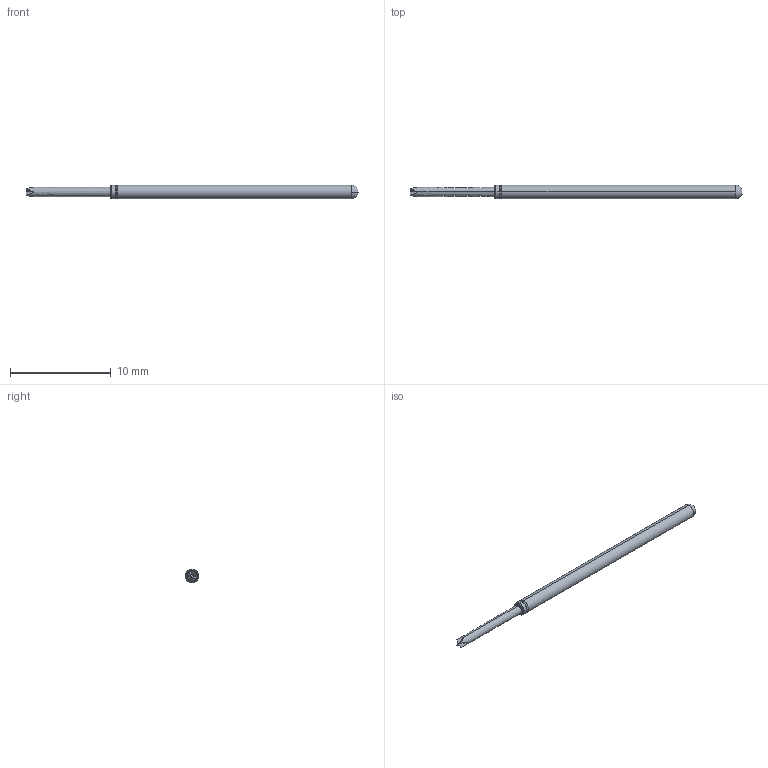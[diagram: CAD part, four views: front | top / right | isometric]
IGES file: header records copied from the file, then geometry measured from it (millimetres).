
Start section: SolidWorks IGES file using analytic representation for surfaces
Global section: file name: Z:\probe solid model mockups\Solidworks models\POGO-25 IGS files\POGO-25FL.IGS; native system: SolidWorks 2006 by SolidWorks Corporation; preprocessor: SolidWorks 2006 by SolidWorks Corporation; author: tsakatani; date: 071214.084431; units: inch
Bounding box: 33.02 x 1.37 x 1.37 mm (x, y, z)
Surface area: 131.8 mm2 (no closed solid volume)
Topology: 0 solids, 0 shells, 26 faces, 170 edges, 170 vertices
Faces by surface type: bspline 14, revolution 12
